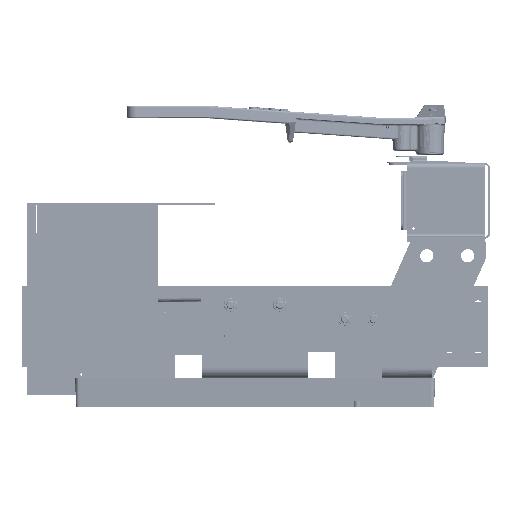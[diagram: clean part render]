
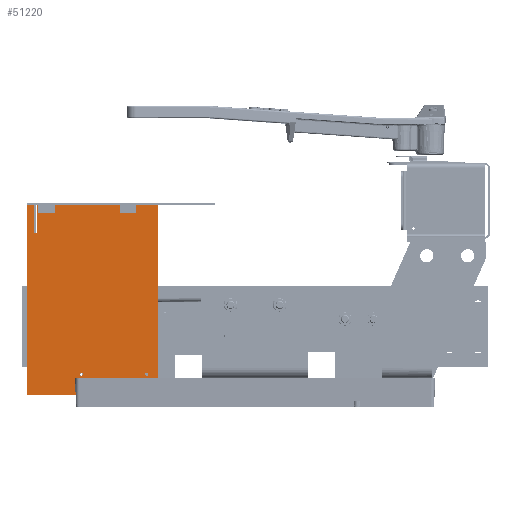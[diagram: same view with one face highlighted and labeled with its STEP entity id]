
A CAD part, left-side view. The second image highlights one B-rep face of the part: STEP entity #51220.
In plain terms, the highlighted planar face has unit normal (-1, 0, 0) as drawn and (0, 0, -1) by its records, which use the part's own axes.
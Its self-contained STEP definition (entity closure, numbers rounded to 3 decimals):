
#2861=FACE_BOUND('',#11258,.T.);
#2862=FACE_BOUND('',#11259,.T.);
#2863=FACE_BOUND('',#11260,.T.);
#2864=FACE_BOUND('',#11261,.T.);
#4643=CIRCLE('',#56532,0.097);
#4645=CIRCLE('',#56535,0.097);
#4647=CIRCLE('',#56538,0.097);
#4649=CIRCLE('',#56541,0.097);
#7871=FACE_OUTER_BOUND('',#11257,.T.);
#11257=EDGE_LOOP('',(#43337,#43338,#43339,#43340,#43341,#43342,#43343,#43344,
#43345,#43346,#43347,#43348));
#11258=EDGE_LOOP('',(#43349));
#11259=EDGE_LOOP('',(#43350));
#11260=EDGE_LOOP('',(#43351));
#11261=EDGE_LOOP('',(#43352));
#15481=LINE('',#84904,#19861);
#15485=LINE('',#84912,#19865);
#15488=LINE('',#84918,#19868);
#15491=LINE('',#84924,#19871);
#15494=LINE('',#84930,#19874);
#15497=LINE('',#84936,#19877);
#15500=LINE('',#84942,#19880);
#15503=LINE('',#84948,#19883);
#15506=LINE('',#84954,#19886);
#15509=LINE('',#84960,#19889);
#15512=LINE('',#84966,#19892);
#15515=LINE('',#84971,#19895);
#19861=VECTOR('',#68233,0.394);
#19865=VECTOR('',#68239,0.394);
#19868=VECTOR('',#68244,0.394);
#19871=VECTOR('',#68249,0.394);
#19874=VECTOR('',#68254,0.394);
#19877=VECTOR('',#68259,0.394);
#19880=VECTOR('',#68264,0.394);
#19883=VECTOR('',#68269,0.394);
#19886=VECTOR('',#68274,0.394);
#19889=VECTOR('',#68279,0.394);
#19892=VECTOR('',#68284,0.394);
#19895=VECTOR('',#68289,0.394);
#24402=VERTEX_POINT('',#84878);
#24404=VERTEX_POINT('',#84884);
#24406=VERTEX_POINT('',#84890);
#24408=VERTEX_POINT('',#84896);
#24410=VERTEX_POINT('',#84902);
#24411=VERTEX_POINT('',#84903);
#24414=VERTEX_POINT('',#84911);
#24416=VERTEX_POINT('',#84917);
#24418=VERTEX_POINT('',#84923);
#24420=VERTEX_POINT('',#84929);
#24422=VERTEX_POINT('',#84935);
#24424=VERTEX_POINT('',#84941);
#24426=VERTEX_POINT('',#84947);
#24428=VERTEX_POINT('',#84953);
#24430=VERTEX_POINT('',#84959);
#24432=VERTEX_POINT('',#84965);
#30908=EDGE_CURVE('',#24402,#24402,#4643,.T.);
#30911=EDGE_CURVE('',#24404,#24404,#4645,.T.);
#30914=EDGE_CURVE('',#24406,#24406,#4647,.T.);
#30917=EDGE_CURVE('',#24408,#24408,#4649,.T.);
#30920=EDGE_CURVE('',#24410,#24411,#15481,.T.);
#30924=EDGE_CURVE('',#24414,#24410,#15485,.T.);
#30927=EDGE_CURVE('',#24416,#24414,#15488,.T.);
#30930=EDGE_CURVE('',#24418,#24416,#15491,.T.);
#30933=EDGE_CURVE('',#24420,#24418,#15494,.T.);
#30936=EDGE_CURVE('',#24422,#24420,#15497,.T.);
#30939=EDGE_CURVE('',#24424,#24422,#15500,.T.);
#30942=EDGE_CURVE('',#24426,#24424,#15503,.T.);
#30945=EDGE_CURVE('',#24428,#24426,#15506,.T.);
#30948=EDGE_CURVE('',#24430,#24428,#15509,.T.);
#30951=EDGE_CURVE('',#24432,#24430,#15512,.T.);
#30954=EDGE_CURVE('',#24411,#24432,#15515,.T.);
#43337=ORIENTED_EDGE('',*,*,#30954,.F.);
#43338=ORIENTED_EDGE('',*,*,#30920,.F.);
#43339=ORIENTED_EDGE('',*,*,#30924,.F.);
#43340=ORIENTED_EDGE('',*,*,#30927,.F.);
#43341=ORIENTED_EDGE('',*,*,#30930,.F.);
#43342=ORIENTED_EDGE('',*,*,#30933,.F.);
#43343=ORIENTED_EDGE('',*,*,#30936,.F.);
#43344=ORIENTED_EDGE('',*,*,#30939,.F.);
#43345=ORIENTED_EDGE('',*,*,#30942,.F.);
#43346=ORIENTED_EDGE('',*,*,#30945,.F.);
#43347=ORIENTED_EDGE('',*,*,#30948,.F.);
#43348=ORIENTED_EDGE('',*,*,#30951,.F.);
#43349=ORIENTED_EDGE('',*,*,#30908,.T.);
#43350=ORIENTED_EDGE('',*,*,#30911,.T.);
#43351=ORIENTED_EDGE('',*,*,#30914,.T.);
#43352=ORIENTED_EDGE('',*,*,#30917,.T.);
#48896=PLANE('',#56556);
#51220=ADVANCED_FACE('',(#7871,#2861,#2862,#2863,#2864),#48896,.F.);
#56532=AXIS2_PLACEMENT_3D('',#84879,#68205,#68206);
#56535=AXIS2_PLACEMENT_3D('',#84885,#68212,#68213);
#56538=AXIS2_PLACEMENT_3D('',#84891,#68219,#68220);
#56541=AXIS2_PLACEMENT_3D('',#84897,#68226,#68227);
#56556=AXIS2_PLACEMENT_3D('',#84974,#68293,#68294);
#68205=DIRECTION('center_axis',(0.,0.,1.));
#68206=DIRECTION('ref_axis',(-1.,0.,0.));
#68212=DIRECTION('center_axis',(0.,0.,1.));
#68213=DIRECTION('ref_axis',(-1.,0.,0.));
#68219=DIRECTION('center_axis',(0.,0.,1.));
#68220=DIRECTION('ref_axis',(-1.,0.,0.));
#68226=DIRECTION('center_axis',(0.,0.,1.));
#68227=DIRECTION('ref_axis',(-1.,0.,0.));
#68233=DIRECTION('',(1.,0.,0.));
#68239=DIRECTION('',(0.,1.,0.));
#68244=DIRECTION('',(1.,0.,0.));
#68249=DIRECTION('',(0.,-1.,0.));
#68254=DIRECTION('',(-1.,0.,0.));
#68259=DIRECTION('',(0.,-1.,0.));
#68264=DIRECTION('',(1.,0.,0.));
#68269=DIRECTION('',(0.,-1.,0.));
#68274=DIRECTION('',(-1.,0.,0.));
#68279=DIRECTION('',(0.,1.,0.));
#68284=DIRECTION('',(1.,0.,0.));
#68289=DIRECTION('',(0.,-1.,0.));
#68293=DIRECTION('center_axis',(0.,0.,1.));
#68294=DIRECTION('ref_axis',(1.,0.,0.));
#84878=CARTESIAN_POINT('',(0.347,2.,0.));
#84879=CARTESIAN_POINT('Origin',(0.25,2.,0.));
#84884=CARTESIAN_POINT('',(0.347,7.,0.));
#84885=CARTESIAN_POINT('Origin',(0.25,7.,0.));
#84890=CARTESIAN_POINT('',(10.472,0.688,0.));
#84891=CARTESIAN_POINT('Origin',(10.375,0.688,0.));
#84896=CARTESIAN_POINT('',(10.472,4.688,0.));
#84897=CARTESIAN_POINT('Origin',(10.375,4.688,0.));
#84902=CARTESIAN_POINT('',(10.625,5.094,0.));
#84903=CARTESIAN_POINT('',(11.156,5.094,0.));
#84904=CARTESIAN_POINT('',(10.625,5.094,0.));
#84911=CARTESIAN_POINT('',(10.625,0.,0.));
#84912=CARTESIAN_POINT('',(10.625,0.,0.));
#84917=CARTESIAN_POINT('',(0.,0.,0.));
#84918=CARTESIAN_POINT('',(0.,0.,0.));
#84923=CARTESIAN_POINT('',(0.,7.422,0.));
#84924=CARTESIAN_POINT('',(0.,7.422,0.));
#84929=CARTESIAN_POINT('',(1.75,7.422,0.));
#84930=CARTESIAN_POINT('',(1.75,7.422,0.));
#84935=CARTESIAN_POINT('',(1.75,7.578,0.));
#84936=CARTESIAN_POINT('',(1.75,7.578,0.));
#84941=CARTESIAN_POINT('',(0.,7.578,0.));
#84942=CARTESIAN_POINT('',(0.,7.578,0.));
#84947=CARTESIAN_POINT('',(0.,8.,0.));
#84948=CARTESIAN_POINT('',(0.,8.,0.));
#84953=CARTESIAN_POINT('',(11.625,8.,0.));
#84954=CARTESIAN_POINT('',(11.625,8.,0.));
#84959=CARTESIAN_POINT('',(11.625,4.719,0.));
#84960=CARTESIAN_POINT('',(11.625,4.719,0.));
#84965=CARTESIAN_POINT('',(11.156,4.719,0.));
#84966=CARTESIAN_POINT('',(11.156,4.719,0.));
#84971=CARTESIAN_POINT('',(11.156,5.094,0.));
#84974=CARTESIAN_POINT('Origin',(5.401,4.41,0.));
